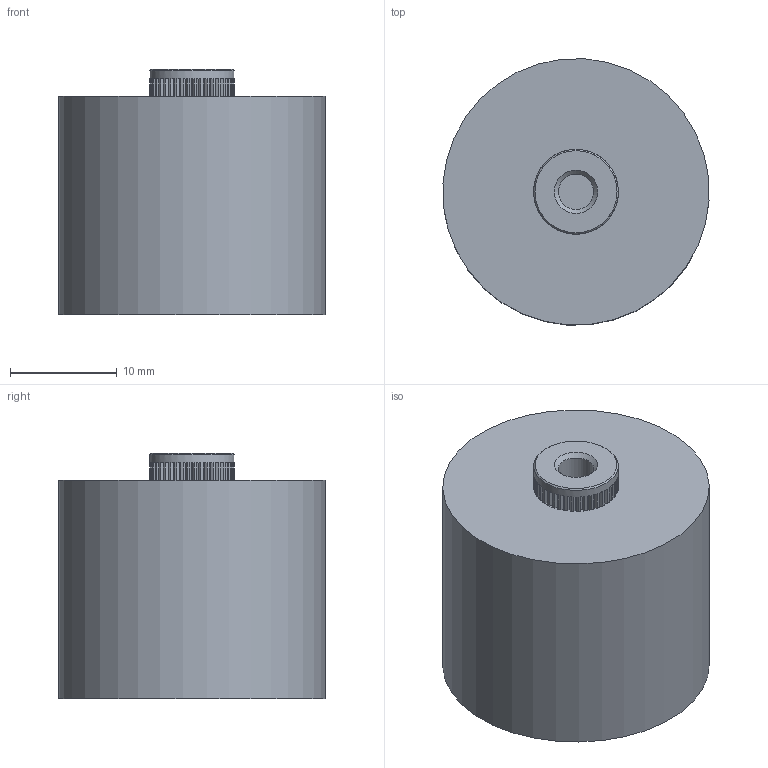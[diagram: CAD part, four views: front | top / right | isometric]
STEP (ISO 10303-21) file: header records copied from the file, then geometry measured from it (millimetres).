
FILE_DESCRIPTION((''),'2;1');
FILE_NAME('I:\Marketing\M6t1\M6T1 - Internal\Drawings\Werk 3\Finished product\Ceramite\Upload for homepage\715\715C###KT###\715C20KTT56.stp','2013-06-10T14:18:25',('sherden'),(''),'Autodesk Inventor 2013','Autodesk Inventor 2013','');
FILE_SCHEMA(('AUTOMOTIVE_DESIGN { 1 2 10303 214 0 1 1 1 }'));
Length unit declared in the file: millimetre
Products named in the file (1): 715C20KTT56
Bounding box: 24.95 x 24.95 x 23 mm (x, y, z)
Volume: 10074.6 mm3; surface area: 2941.3 mm2
Topology: 1 solids, 41 shells, 573 faces, 1419 edges, 932 vertices
Faces by surface type: plane 486, cylinder 84, cone 3
Full cylindrical faces by diameter (mm): 3.302 x2, 7.95 x1, 25 x1
Entity records: 17304 total; most frequent: CARTESIAN_POINT 2916, ORIENTED_EDGE 2822, DIRECTION 2810, EDGE_CURVE 1411, VECTOR 1160, LINE 1160, VERTEX_POINT 931, AXIS2_PLACEMENT_3D 825
